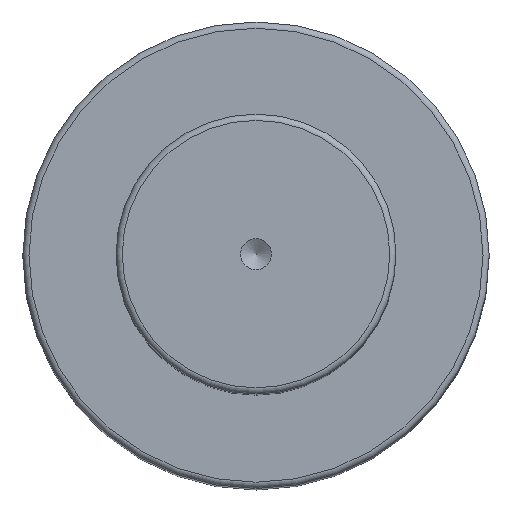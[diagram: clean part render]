
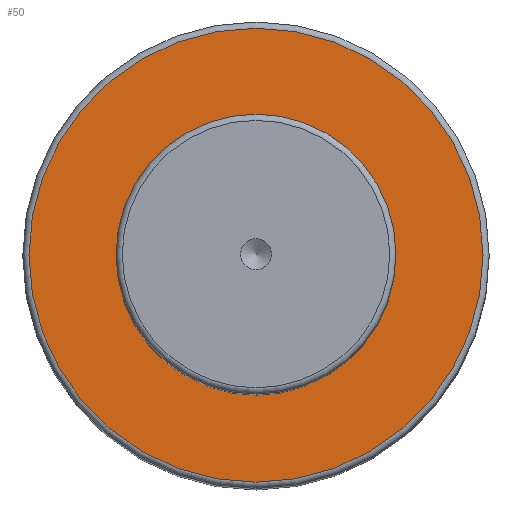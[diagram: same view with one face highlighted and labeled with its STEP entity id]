
A CAD part, top view. The second image highlights one B-rep face of the part: STEP entity #50.
In plain terms, the highlighted planar face has unit normal (0, 0, 1).
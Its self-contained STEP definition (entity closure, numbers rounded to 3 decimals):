
#40=PLANE('',#179);
#50=ADVANCED_FACE('',(#72,#73),#40,.F.);
#72=FACE_BOUND('',#96,.T.);
#73=FACE_BOUND('',#97,.T.);
#96=EDGE_LOOP('',(#118));
#97=EDGE_LOOP('',(#119));
#118=ORIENTED_EDGE('',*,*,#149,.F.);
#119=ORIENTED_EDGE('',*,*,#148,.T.);
#135=VERTEX_POINT('',#256);
#136=VERTEX_POINT('',#259);
#148=EDGE_CURVE('',#135,#135,#159,.T.);
#149=EDGE_CURVE('',#136,#136,#160,.T.);
#159=CIRCLE('',#176,22.5);
#160=CIRCLE('',#178,36.5);
#176=AXIS2_PLACEMENT_3D('',#255,#213,#214);
#178=AXIS2_PLACEMENT_3D('',#258,#217,#218);
#179=AXIS2_PLACEMENT_3D('',#260,#219,#220);
#213=DIRECTION('',(0.,0.,-1.));
#214=DIRECTION('',(-1.,0.,0.));
#217=DIRECTION('',(0.,0.,-1.));
#218=DIRECTION('',(-1.,0.,0.));
#219=DIRECTION('',(0.,0.,-1.));
#220=DIRECTION('',(-1.,0.,0.));
#255=CARTESIAN_POINT('',(0.,0.,144.));
#256=CARTESIAN_POINT('',(-22.5,0.,144.));
#258=CARTESIAN_POINT('',(0.,0.,144.));
#259=CARTESIAN_POINT('',(-36.5,0.,144.));
#260=CARTESIAN_POINT('',(22.5,0.,144.));
